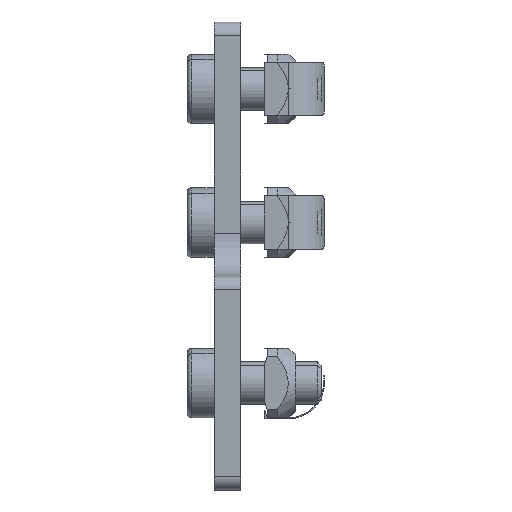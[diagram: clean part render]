
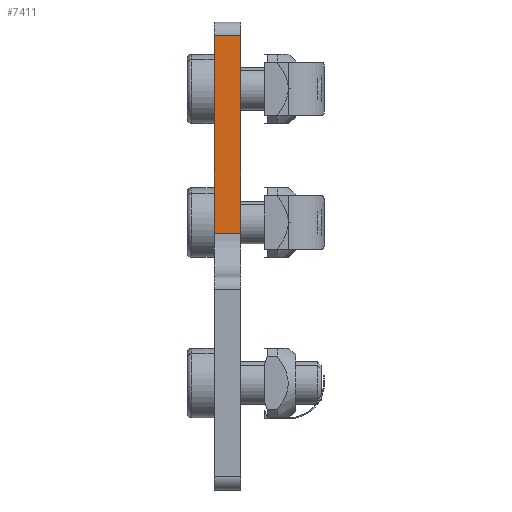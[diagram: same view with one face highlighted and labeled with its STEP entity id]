
A CAD part, left-side view. The second image highlights one B-rep face of the part: STEP entity #7411.
In plain terms, the highlighted planar face has unit normal (-1, 0, 0).
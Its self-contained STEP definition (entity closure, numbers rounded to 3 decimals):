
#175 = LINE ( 'NONE', #4169, #2237 ) ;
#475 = VECTOR ( 'NONE', #2445, 1000. ) ;
#489 = VECTOR ( 'NONE', #10593, 1000. ) ;
#534 = LINE ( 'NONE', #1513, #489 ) ;
#551 = EDGE_CURVE ( 'NONE', #5791, #1395, #11175, .T. ) ;
#849 = FACE_OUTER_BOUND ( 'NONE', #9656, .T. ) ;
#983 = CARTESIAN_POINT ( 'NONE',  ( 646.909, 868.418, 1271.111 ) ) ;
#1281 = EDGE_CURVE ( 'NONE', #5791, #11268, #534, .T. ) ;
#1350 = ORIENTED_EDGE ( 'NONE', *, *, #5707, .F. ) ;
#1395 = VERTEX_POINT ( 'NONE', #4797 ) ;
#1513 = CARTESIAN_POINT ( 'NONE',  ( 646.909, 868.418, 1271.111 ) ) ;
#2225 = DIRECTION ( 'NONE',  ( 0., -1., 0. ) ) ;
#2237 = VECTOR ( 'NONE', #2225, 1000. ) ;
#2445 = DIRECTION ( 'NONE',  ( 0., 0., 1. ) ) ;
#2711 = CARTESIAN_POINT ( 'NONE',  ( 646.909, 868.418, 1308.111 ) ) ;
#2757 = PLANE ( 'NONE',  #6634 ) ;
#3220 = DIRECTION ( 'NONE',  ( 1., 0., 0. ) ) ;
#3491 = CARTESIAN_POINT ( 'NONE',  ( 646.909, 863.418, 1271.111 ) ) ;
#3501 = ORIENTED_EDGE ( 'NONE', *, *, #551, .T. ) ;
#3781 = ORIENTED_EDGE ( 'NONE', *, *, #1281, .F. ) ;
#4169 = CARTESIAN_POINT ( 'NONE',  ( 646.909, 868.418, 1308.111 ) ) ;
#4296 = DIRECTION ( 'NONE',  ( 0., -1., 0. ) ) ;
#4797 = CARTESIAN_POINT ( 'NONE',  ( 646.909, 863.418, 1271.111 ) ) ;
#5707 = EDGE_CURVE ( 'NONE', #11268, #12041, #175, .T. ) ;
#5791 = VERTEX_POINT ( 'NONE', #8455 ) ;
#6634 = AXIS2_PLACEMENT_3D ( 'NONE', #983, #3220, #7218 ) ;
#7218 = DIRECTION ( 'NONE',  ( 0., 0., -1. ) ) ;
#7411 = ADVANCED_FACE ( 'NONE', ( #849 ), #2757, .F. ) ;
#8308 = CARTESIAN_POINT ( 'NONE',  ( 646.909, 868.418, 1271.111 ) ) ;
#8455 = CARTESIAN_POINT ( 'NONE',  ( 646.909, 868.418, 1271.111 ) ) ;
#8917 = ORIENTED_EDGE ( 'NONE', *, *, #11470, .T. ) ;
#9656 = EDGE_LOOP ( 'NONE', ( #8917, #1350, #3781, #3501 ) ) ;
#10286 = CARTESIAN_POINT ( 'NONE',  ( 646.909, 863.418, 1308.111 ) ) ;
#10593 = DIRECTION ( 'NONE',  ( 0., 0., 1. ) ) ;
#11175 = LINE ( 'NONE', #8308, #12724 ) ;
#11268 = VERTEX_POINT ( 'NONE', #2711 ) ;
#11422 = LINE ( 'NONE', #3491, #475 ) ;
#11470 = EDGE_CURVE ( 'NONE', #1395, #12041, #11422, .T. ) ;
#12041 = VERTEX_POINT ( 'NONE', #10286 ) ;
#12724 = VECTOR ( 'NONE', #4296, 1000. ) ;
